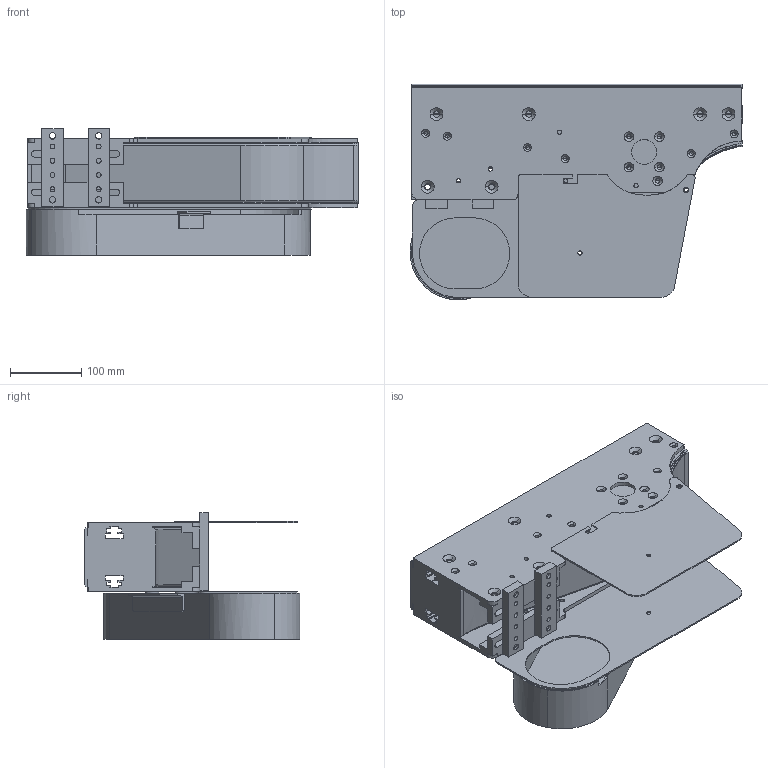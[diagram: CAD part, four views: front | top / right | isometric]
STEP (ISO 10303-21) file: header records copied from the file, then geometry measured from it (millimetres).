
FILE_DESCRIPTION (( 'STEP AP214' ), '1' );
FILE_NAME ('FMID SD 0L.step', '2017-04-07T11:08:34', ( '' ), ( '' ), 'SwSTEP 2.0', 'SolidWorks 2016', '' );
FILE_SCHEMA (( 'AUTOMOTIVE_DESIGN' ));
Length unit declared in the file: millimetre
Products named in the file (1): FMID SD 0L
Bounding box: 467.29 x 303.46 x 178 mm (x, y, z)
Volume: 6141794.6 mm3; surface area: 835492.3 mm2
Topology: 1 solids, 1 shells, 652 faces, 1761 edges, 1083 vertices
Faces by surface type: cylinder 279, plane 231, cone 112, bspline 30
Entity records: 24827 total; most frequent: CARTESIAN_POINT 3990, DIRECTION 3682, ORIENTED_EDGE 3434, EDGE_CURVE 1717, AXIS2_PLACEMENT_3D 1356, VERTEX_POINT 1083, LINE 970, VECTOR 970
